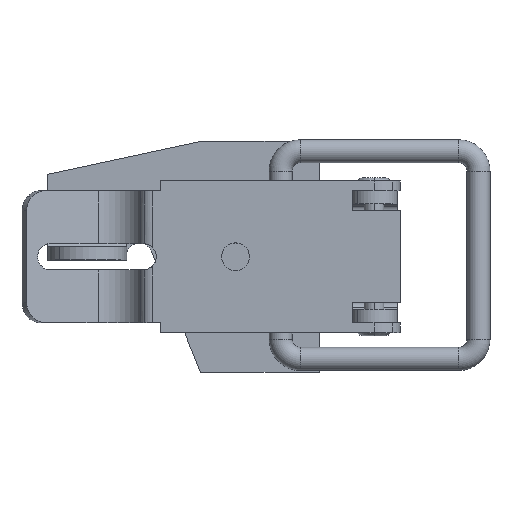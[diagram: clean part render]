
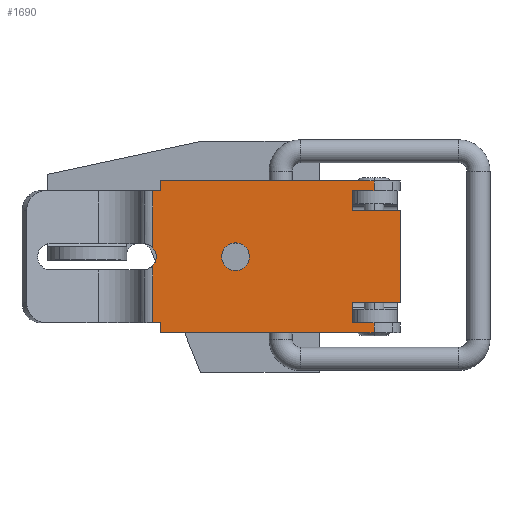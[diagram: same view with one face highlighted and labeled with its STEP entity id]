
A CAD part, top view. The second image highlights one B-rep face of the part: STEP entity #1690.
In plain terms, the highlighted planar face has unit normal (0, 0, 1).
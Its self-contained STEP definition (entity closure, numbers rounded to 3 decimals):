
#877=CARTESIAN_POINT('',(2.6,10.103,3.994));
#878=VERTEX_POINT('',#877);
#894=CARTESIAN_POINT('',(-1.6,10.103,3.994));
#895=VERTEX_POINT('',#894);
#902=CARTESIAN_POINT('',(0.5,10.103,3.994));
#903=DIRECTION('',(0.0,0.0,-1.0));
#904=DIRECTION('',(1.0,0.0,0.0));
#905=AXIS2_PLACEMENT_3D('',#902,#903,#904);
#906=CIRCLE('',#905,2.1);
#907=EDGE_CURVE('',#878,#895,#906,.T.);
#918=CARTESIAN_POINT('',(0.5,10.103,3.994));
#919=DIRECTION('',(0.0,0.0,-1.0));
#920=DIRECTION('',(1.0,0.0,0.0));
#921=AXIS2_PLACEMENT_3D('',#918,#919,#920);
#922=CIRCLE('',#921,2.1);
#923=EDGE_CURVE('',#895,#878,#922,.T.);
#1086=CARTESIAN_POINT('',(1.886,-2.477,3.994));
#1087=VERTEX_POINT('',#1086);
#1101=CARTESIAN_POINT('',(-0.886,-2.477,3.994));
#1102=VERTEX_POINT('',#1101);
#1103=CARTESIAN_POINT('',(0.5,-3.919,3.994));
#1104=DIRECTION('',(0.0,0.0,-1.0));
#1105=DIRECTION('',(1.0,0.0,0.0));
#1106=AXIS2_PLACEMENT_3D('',#1103,#1104,#1105);
#1107=CIRCLE('',#1106,2.0);
#1108=EDGE_CURVE('',#1102,#1087,#1107,.T.);
#1363=CARTESIAN_POINT('',(-9.5,-2.477,3.994));
#1364=VERTEX_POINT('',#1363);
#1365=CARTESIAN_POINT('',(-0.886,-2.477,3.994));
#1366=DIRECTION('',(-1.0,0.0,0.0));
#1367=VECTOR('',#1366,8.614);
#1368=LINE('',#1365,#1367);
#1369=EDGE_CURVE('',#1102,#1364,#1368,.T.);
#1485=CARTESIAN_POINT('',(12.0,31.103,3.994));
#1486=VERTEX_POINT('',#1485);
#1494=CARTESIAN_POINT('',(12.0,-1.219,3.994));
#1495=VERTEX_POINT('',#1494);
#1496=CARTESIAN_POINT('',(12.0,-1.219,3.994));
#1497=DIRECTION('',(0.0,1.0,0.0));
#1498=VECTOR('',#1497,32.322);
#1499=LINE('',#1496,#1498);
#1500=EDGE_CURVE('',#1495,#1486,#1499,.T.);
#1548=CARTESIAN_POINT('',(10.5,31.103,3.994));
#1549=VERTEX_POINT('',#1548);
#1557=CARTESIAN_POINT('',(10.5,31.103,3.994));
#1558=DIRECTION('',(1.0,0.0,0.));
#1559=VECTOR('',#1558,1.5);
#1560=LINE('',#1557,#1559);
#1561=EDGE_CURVE('',#1549,#1486,#1560,.T.);
#1567=CARTESIAN_POINT('',(-9.5,-4.156,3.994));
#1568=DIRECTION('',(0.0,0.0,1.0));
#1569=DIRECTION('',(1.0,0.0,0.0));
#1570=AXIS2_PLACEMENT_3D('',#1567,#1568,#1569);
#1571=PLANE('',#1570);
#1572=ORIENTED_EDGE('',*,*,#1108,.T.);
#1573=CARTESIAN_POINT('',(10.5,-2.477,3.994));
#1574=VERTEX_POINT('',#1573);
#1575=CARTESIAN_POINT('',(10.5,-2.477,3.994));
#1576=DIRECTION('',(-1.0,0.0,0.0));
#1577=VECTOR('',#1576,8.614);
#1578=LINE('',#1575,#1577);
#1579=EDGE_CURVE('',#1574,#1087,#1578,.T.);
#1580=ORIENTED_EDGE('',*,*,#1579,.F.);
#1581=CARTESIAN_POINT('',(10.5,-1.219,3.994));
#1582=VERTEX_POINT('',#1581);
#1583=CARTESIAN_POINT('',(10.5,-2.477,3.994));
#1584=DIRECTION('',(0.0,1.0,0.));
#1585=VECTOR('',#1584,1.259);
#1586=LINE('',#1583,#1585);
#1587=EDGE_CURVE('',#1574,#1582,#1586,.T.);
#1588=ORIENTED_EDGE('',*,*,#1587,.T.);
#1589=CARTESIAN_POINT('',(10.5,-1.219,3.994));
#1590=DIRECTION('',(1.0,0.0,0.0));
#1591=VECTOR('',#1590,1.5);
#1592=LINE('',#1589,#1591);
#1593=EDGE_CURVE('',#1582,#1495,#1592,.T.);
#1594=ORIENTED_EDGE('',*,*,#1593,.T.);
#1595=ORIENTED_EDGE('',*,*,#1500,.T.);
#1596=ORIENTED_EDGE('',*,*,#1561,.F.);
#1597=CARTESIAN_POINT('',(10.5,27.781,3.994));
#1598=VERTEX_POINT('',#1597);
#1599=CARTESIAN_POINT('',(10.5,31.103,3.994));
#1600=DIRECTION('',(0.0,-1.0,0.0));
#1601=VECTOR('',#1600,3.322);
#1602=LINE('',#1599,#1601);
#1603=EDGE_CURVE('',#1549,#1598,#1602,.T.);
#1604=ORIENTED_EDGE('',*,*,#1603,.T.);
#1605=CARTESIAN_POINT('',(7.5,27.781,3.994));
#1606=VERTEX_POINT('',#1605);
#1607=CARTESIAN_POINT('',(10.5,27.781,3.994));
#1608=DIRECTION('',(-1.0,0.0,0.0));
#1609=VECTOR('',#1608,3.0);
#1610=LINE('',#1607,#1609);
#1611=EDGE_CURVE('',#1598,#1606,#1610,.T.);
#1612=ORIENTED_EDGE('',*,*,#1611,.T.);
#1613=CARTESIAN_POINT('',(7.5,35.103,3.994));
#1614=VERTEX_POINT('',#1613);
#1615=CARTESIAN_POINT('',(7.5,27.781,3.994));
#1616=DIRECTION('',(0.0,1.0,0.0));
#1617=VECTOR('',#1616,7.322);
#1618=LINE('',#1615,#1617);
#1619=EDGE_CURVE('',#1606,#1614,#1618,.T.);
#1620=ORIENTED_EDGE('',*,*,#1619,.T.);
#1621=CARTESIAN_POINT('',(-6.5,35.103,3.994));
#1622=VERTEX_POINT('',#1621);
#1623=CARTESIAN_POINT('',(7.5,35.103,3.994));
#1624=DIRECTION('',(-1.0,0.0,0.0));
#1625=VECTOR('',#1624,14.);
#1626=LINE('',#1623,#1625);
#1627=EDGE_CURVE('',#1614,#1622,#1626,.T.);
#1628=ORIENTED_EDGE('',*,*,#1627,.T.);
#1629=CARTESIAN_POINT('',(-6.5,27.781,3.994));
#1630=VERTEX_POINT('',#1629);
#1631=CARTESIAN_POINT('',(-6.5,35.103,3.994));
#1632=DIRECTION('',(0.0,-1.0,0.0));
#1633=VECTOR('',#1632,7.322);
#1634=LINE('',#1631,#1633);
#1635=EDGE_CURVE('',#1622,#1630,#1634,.T.);
#1636=ORIENTED_EDGE('',*,*,#1635,.T.);
#1637=CARTESIAN_POINT('',(-9.5,27.781,3.994));
#1638=VERTEX_POINT('',#1637);
#1639=CARTESIAN_POINT('',(-6.5,27.781,3.994));
#1640=DIRECTION('',(-1.0,0.0,0.0));
#1641=VECTOR('',#1640,3.);
#1642=LINE('',#1639,#1641);
#1643=EDGE_CURVE('',#1630,#1638,#1642,.T.);
#1644=ORIENTED_EDGE('',*,*,#1643,.T.);
#1645=CARTESIAN_POINT('',(-9.5,31.103,3.994));
#1646=VERTEX_POINT('',#1645);
#1647=CARTESIAN_POINT('',(-9.5,27.781,3.994));
#1648=DIRECTION('',(0.0,1.0,0.0));
#1649=VECTOR('',#1648,3.322);
#1650=LINE('',#1647,#1649);
#1651=EDGE_CURVE('',#1638,#1646,#1650,.T.);
#1652=ORIENTED_EDGE('',*,*,#1651,.T.);
#1653=CARTESIAN_POINT('',(-11.0,31.103,3.994));
#1654=VERTEX_POINT('',#1653);
#1655=CARTESIAN_POINT('',(-11.0,31.103,3.994));
#1656=DIRECTION('',(1.0,0.0,0.0));
#1657=VECTOR('',#1656,1.5);
#1658=LINE('',#1655,#1657);
#1659=EDGE_CURVE('',#1654,#1646,#1658,.T.);
#1660=ORIENTED_EDGE('',*,*,#1659,.F.);
#1661=CARTESIAN_POINT('',(-11.0,-1.219,3.994));
#1662=VERTEX_POINT('',#1661);
#1663=CARTESIAN_POINT('',(-11.0,31.103,3.994));
#1664=DIRECTION('',(0.0,-1.0,0.0));
#1665=VECTOR('',#1664,32.322);
#1666=LINE('',#1663,#1665);
#1667=EDGE_CURVE('',#1654,#1662,#1666,.T.);
#1668=ORIENTED_EDGE('',*,*,#1667,.T.);
#1669=CARTESIAN_POINT('',(-9.5,-1.219,3.994));
#1670=VERTEX_POINT('',#1669);
#1671=CARTESIAN_POINT('',(-9.5,-1.219,3.994));
#1672=DIRECTION('',(-1.0,0.0,0.0));
#1673=VECTOR('',#1672,1.5);
#1674=LINE('',#1671,#1673);
#1675=EDGE_CURVE('',#1670,#1662,#1674,.T.);
#1676=ORIENTED_EDGE('',*,*,#1675,.F.);
#1677=CARTESIAN_POINT('',(-9.5,-2.477,3.994));
#1678=DIRECTION('',(0.0,1.0,0.0));
#1679=VECTOR('',#1678,1.259);
#1680=LINE('',#1677,#1679);
#1681=EDGE_CURVE('',#1364,#1670,#1680,.T.);
#1682=ORIENTED_EDGE('',*,*,#1681,.F.);
#1683=ORIENTED_EDGE('',*,*,#1369,.F.);
#1684=EDGE_LOOP('',(#1572,#1580,#1588,#1594,#1595,#1596,#1604,#1612,#1620,#1628,#1636,#1644,#1652,#1660,#1668,#1676,#1682,#1683));
#1685=FACE_OUTER_BOUND('',#1684,.T.);
#1686=ORIENTED_EDGE('',*,*,#907,.T.);
#1687=ORIENTED_EDGE('',*,*,#923,.T.);
#1688=EDGE_LOOP('',(#1686,#1687));
#1689=FACE_BOUND('',#1688,.T.);
#1690=ADVANCED_FACE('',(#1685,#1689),#1571,.T.);
